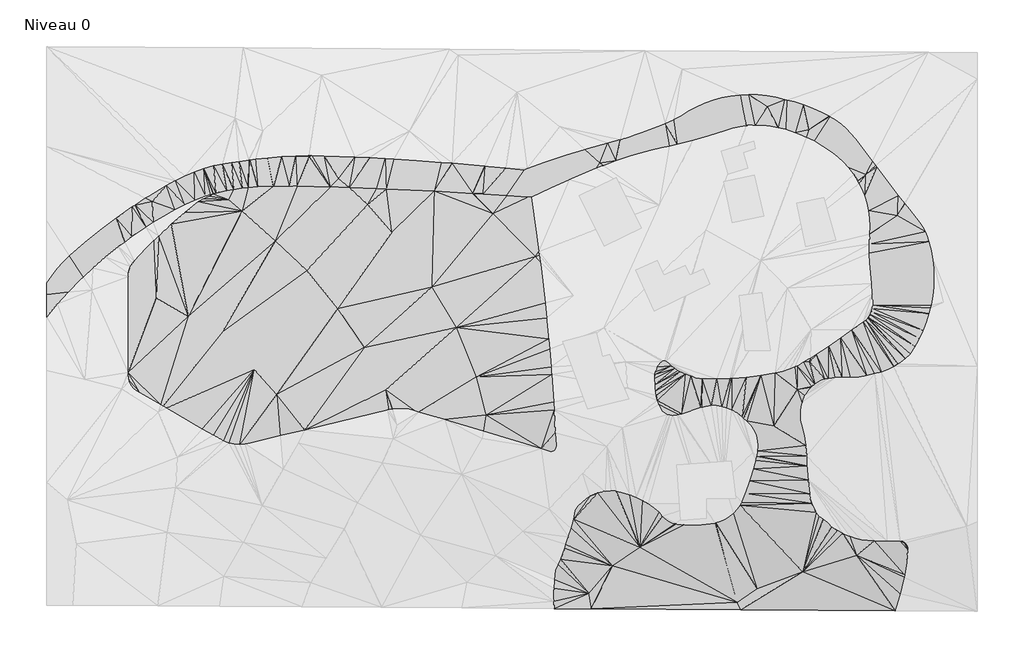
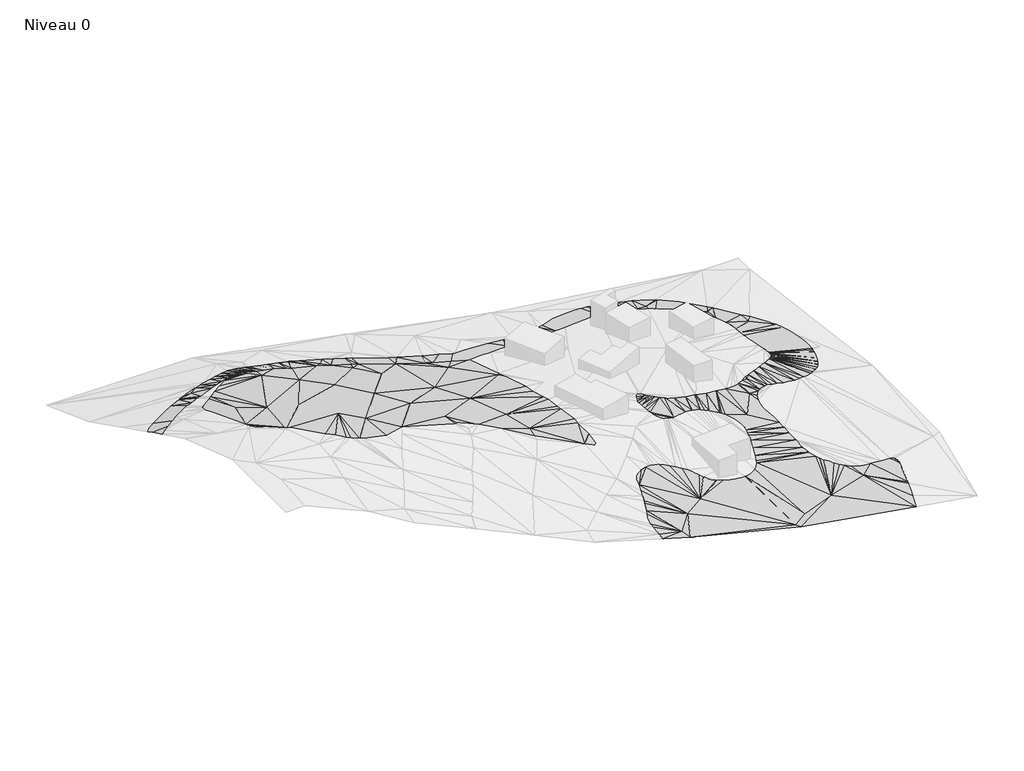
# One storey, part 1 of 2: 2 proxies.
"""IFC4 building model written with IfcOpenShell, lengths in millimetres."""

import ifcopenshell
import ifcopenshell.guid

model = None  # the IFC model being written
_history = None  # IfcOwnerHistory: only IFC2X3 demands one
_inside = {}  # id of a spatial element -> (the spatial element, [elements in it])
_under = {}  # id of a project, library or spatial element -> (it, [spatial elements below it])
_declared = {}  # id of a project -> (the project, [libraries it declares])
_typed = {}  # id of a type object -> (the type object, [elements of that type])
_made_of = {}  # id of a material, layer set ... -> (it, [elements and type objects made of it])


def new_model(schema):
    """Start an empty IFC model of exactly this schema.

    Asked for "IFC4X3", IfcOpenShell would pick the latest addendum, in which some entities
    have other attributes; the version numbers below select the first issue.
    IFC2X3 requires an IfcOwnerHistory on every rooted entity: one is made here for all.
    """
    global model, _history
    if schema == "IFC4X3":
        model = ifcopenshell.file(schema_version=(4, 3, 0, 0))
    else:
        model = ifcopenshell.file(schema=schema)
    _inside.clear()
    _under.clear()
    _declared.clear()
    _typed.clear()
    _made_of.clear()
    _history = None
    if model.schema == "IFC2X3":
        org = make("IfcOrganization", Name="unknown")
        user = make(
            "IfcPersonAndOrganization",
            ThePerson=make("IfcPerson", FamilyName="unknown"),
            TheOrganization=org,
        )
        app = make(
            "IfcApplication",
            ApplicationDeveloper=org,
            Version="unknown",
            ApplicationFullName="unknown",
            ApplicationIdentifier="unknown",
        )
        _history = make(
            "IfcOwnerHistory",
            OwningUser=user,
            OwningApplication=app,
            ChangeAction="ADDED",
            CreationDate=0,
        )
    return model


def make(cls, **values):
    """One entity of the class cls with the attributes given. An attribute that is None is left unset."""
    return model.create_entity(
        cls, **{name: value for name, value in values.items() if value is not None}
    )


def rooted(cls, **values):
    """An entity with a GlobalId (a new one), such as an element, a storey or a relation."""
    return make(cls, GlobalId=ifcopenshell.guid.new(), OwnerHistory=_history, **values)


def si_unit(unit_type, name, prefix=None):
    """IfcSIUnit, for example si_unit("LENGTHUNIT", "METRE", prefix="MILLI")."""
    return make("IfcSIUnit", UnitType=unit_type, Prefix=prefix, Name=name)


def assignment(units):
    """IfcUnitAssignment: the units of a project."""
    return None if units is None else make("IfcUnitAssignment", Units=units)


def point(xyz):
    """IfcCartesianPoint."""
    return None if xyz is None else make("IfcCartesianPoint", Coordinates=xyz)


def direction(xyz):
    """IfcDirection."""
    return None if xyz is None else make("IfcDirection", DirectionRatios=xyz)


def frame(location, z_axis=None, x_axis=None):
    """IfcAxis2Placement3D, a coordinate frame: its origin and axes. An axis left out is left unset."""
    return make(
        "IfcAxis2Placement3D",
        Location=point(location),
        Axis=direction(z_axis),
        RefDirection=direction(x_axis),
    )


def origin():
    """The frame at (0, 0, 0) with its axes left unset."""
    return frame((0.0, 0.0, 0.0))


def place(relative_to, where):
    """IfcLocalPlacement: puts the frame where relative to a parent placement (None: the world)."""
    return make(
        "IfcLocalPlacement", PlacementRelTo=relative_to, RelativePlacement=where
    )


def context(
    kind, dimensions, precision=None, world=None, true_north=None, identifier=None
):
    """IfcGeometricRepresentationContext, for example the 3D "Model" context."""
    return make(
        "IfcGeometricRepresentationContext",
        ContextIdentifier=identifier,
        ContextType=kind,
        CoordinateSpaceDimension=dimensions,
        Precision=precision,
        WorldCoordinateSystem=world,
        TrueNorth=true_north,
    )


def project(units=None, contexts=None):
    """IfcProject with its units and contexts."""
    return rooted(
        "IfcProject",
        Name="project",
        RepresentationContexts=contexts,
        UnitsInContext=assignment(units),
    )


def spatial(cls, under=None, at=None, **own):
    """A site, building, storey or space (cls), placed at a placement, below another one or the project."""
    s = rooted(cls, ObjectPlacement=at, **own)
    if under is not None:
        _under.setdefault(under.id(), (under, []))[1].append(s)
    return s


def point_list(points):
    """IfcCartesianPointList2D or 3D."""
    cls = (
        "IfcCartesianPointList2D" if len(points[0]) == 2 else "IfcCartesianPointList3D"
    )
    return make(cls, CoordList=points)


def triangles(points, corners, closed=None, point_numbers=None):
    """IfcTriangulatedFaceSet: each triangle names its three corners, points numbered from 1."""
    return make(
        "IfcTriangulatedFaceSet",
        Coordinates=point_list(points),
        Closed=closed,
        CoordIndex=corners,
        PnIndex=point_numbers,
    )


def shape(context_of_items, identifier, shape_type, items):
    """IfcShapeRepresentation: the items that make up one representation, for example the "Body"."""
    return make(
        "IfcShapeRepresentation",
        ContextOfItems=context_of_items,
        RepresentationIdentifier=identifier,
        RepresentationType=shape_type,
        Items=items,
    )


def made_of(thing, what):
    """Note that an element or type object is made of a material, layer set ...; save() writes the relation."""
    if what is not None:
        _made_of.setdefault(what.id(), (what, []))[1].append(thing)
    return thing


def element(
    cls,
    number,
    at=None,
    inside=None,
    cuts=None,
    type_object=None,
    material=None,
    context=None,
    identifier="Body",
    shape_type=None,
    held_by="IfcProductDefinitionShape",
    body=None,
    shapes=None,
    **own,
):
    """One element of the class cls, such as IfcWall. Its Tag is "e" and its number.

    at: its placement. inside: the storey or other place that contains it. cuts: it is an
    opening in that element (IfcRelVoidsElement). A single representation is given by context,
    identifier, shape_type and body (its items); several are given by shapes. held_by: the class
    of the entity that holds the representations. save() writes the other relations.
    """
    e = rooted(cls, Tag="e%d" % number, ObjectPlacement=at, **own)
    if body is not None:
        shapes = [shape(context, identifier, shape_type, body)]
    if shapes is not None:
        e.Representation = make(held_by, Representations=shapes)
    if inside is not None:
        _inside.setdefault(inside.id(), (inside, []))[1].append(e)
    if cuts is not None:
        rooted(
            "IfcRelVoidsElement", RelatingBuildingElement=cuts, RelatedOpeningElement=e
        )
    if type_object is not None:
        _typed.setdefault(type_object.id(), (type_object, []))[1].append(e)
    return made_of(e, material)


def aggregate(whole, parts):
    """IfcRelAggregates: a whole, such as a stair, and the parts it consists of."""
    return rooted("IfcRelAggregates", RelatingObject=whole, RelatedObjects=parts)


def save(model, path):
    """Write the relations noted so far, then the file.

    IfcRelAggregates (storeys below a building ...), IfcRelContainedInSpatialStructure (elements
    in a storey), IfcRelDefinesByType, IfcRelAssociatesMaterial and IfcRelDeclares: one each for
    every whole, place, type object, material and project.
    """
    for whole, parts in _under.values():
        aggregate(whole, parts)
    for where, things in _inside.values():
        rooted(
            "IfcRelContainedInSpatialStructure",
            RelatedElements=things,
            RelatingStructure=where,
        )
    for kind, things in _typed.values():
        rooted("IfcRelDefinesByType", RelatedObjects=things, RelatingType=kind)
    for what, things in _made_of.values():
        rooted("IfcRelAssociatesMaterial", RelatedObjects=things, RelatingMaterial=what)
    for by, libraries in _declared.values():
        rooted("IfcRelDeclares", RelatingContext=by, RelatedDefinitions=libraries)
    model.write(path)


model = new_model("IFC4")

# Units and contexts
model_context = context("Model", 3, world=origin())
ifc_project = project(units=[si_unit("LENGTHUNIT", "METRE", prefix="MILLI")], contexts=[model_context])

# Site, building, storey
site = spatial("IfcSite", under=ifc_project)
building = spatial("IfcBuilding", under=site)
storey = spatial("IfcBuildingStorey", under=building, Name="Niveau 0", Elevation=260000.0)

# Proxies
placement = place(None, origin())
element("IfcBuildingElementProxy", 1, Name="Building Element Proxy", at=placement, inside=storey, context=model_context, shape_type="Tessellation", body=[
    triangles([(5461.9253311, -14892.5839966, 245077.7291016), (5638.3721191, -14859.6894928, 245000.0036133), (6074.8745453, -14778.3119019, 245000.0036133), (6177.6328079, -14759.1537689, 244957.0666992), (6903.3978104, -14701.6503021, 244664.0985352), (7631.1876892, -14720.7084412, 244380.3577148), (8352.9477036, -14816.116571, 244109.0068359), (9060.691713, -14986.8212677, 243853.0224609), (9679.1074539, -15172.354129, 243634.1334961), (13152.6576416, -16214.4661011, 242319.8881348), (18319.1585632, -17764.4854431, 239999.9925293), (26068.0716248, -20089.262146, 237136.0743164), (27259.3244934, -20446.6542847, 236757.8090332), (27459.4239075, -20471.7899597, 236702.1287109), (27656.7467468, -20430.1366882, 236662.2241699), (27829.6129395, -20326.2686096, 236642.4486328), (27959.0282959, -20171.5966553, 236644.9787109), (28030.7750793, -19983.1197876, 236669.5539551), (28040.7023804, -19693.3886353, 236732.4152344), (27954.1913818, -18025.1730194, 237130.214209), (27793.0198242, -14917.253421, 237479.718457), (27721.8730042, -13872.0334991, 237602.0737793), (27468.2280212, -10145.7423431, 237309.3474609), (27383.2983215, -9138.4712677, 237234.2450684), (27179.2642639, -6718.5683945, 237124.4471191), (27066.4106873, -5380.0989304, 236879.2713867), (26785.7417725, -2590.3197968, 236377.9996582), (26587.672467, -621.5677288, 236207.1821777), (26586.2399963, -609.3132079, 236206.1775879), (26032.1389343, 4128.6104942, 235181.6819824), (25917.9040466, 4985.2352417, 235000.0000488), (25798.7996887, 5878.3580521, 234838.5773438), (25736.375592, 6346.462619, 234724.9284668), (25399.9542664, 8869.1964249, 234210.8203125), (24691.2858948, 13598.9524933, 233265.482666), (24264.5072937, 13627.8030579, 233360.1931641), (21430.2802917, 13819.3960144, 233962.537793), (18225.349173, 14036.0490692, 234699.7765137), (16934.2535614, 14109.9236298, 235000.0000488), (16926.4017151, 14110.3736023, 235002.0836426), (16918.7672974, 14110.8107849, 235004.5579102), (16895.6570801, 14112.1327972, 235011.7388672), (11755.2394501, 14406.2625183, 236562.4163086), (5281.6468002, 14709.5556335, 238537.3097168), (4043.5328384, 14754.7365967, 238919.2212891), (326.2429862, 14890.3899445, 239999.9925293), (-1194.7352142, 14945.8935333, 240403.2981445), (-1445.016885, 14952.4361572, 240470.4568359), (-2196.7071945, 14972.0872833, 240677.7186035), (-6612.5847473, 15087.5267487, 241747.9044434), (-7673.2147751, 15115.2529633, 242053.0020996), (-9787.7060577, 15108.9986938, 242680.9637695), (-9862.7898468, 15105.1803223, 242704.4228027), (-11899.479483, 15001.6168762, 243199.6483887), (-13178.2037567, 14875.0571594, 243535.8697266), (-14003.6987183, 14793.3551697, 243841.5254883), (-15110.3904694, 14630.0546722, 244271.8992188), (-16095.5501038, 14484.6879639, 244494.7135254), (-16898.0999542, 14312.0601288, 244701.7148438), (-17683.6008453, 14073.5735229, 244936.9749023), (-17867.1733612, 14000.7488983, 245000.0036133), (-17869.5360077, 13999.8117462, 245000.0036133), (-17881.3899353, 13995.1097076, 245003.1476074), (-18446.6565948, 13770.8664185, 245062.4184082), (-19182.0291504, 13406.0165955, 245167.7515137), (-19884.665332, 12981.5308777, 245297.6784668), (-21713.6513672, 11517.309787, 245774.5237793), (-23490.0871216, 9989.7600037, 246278.3441895), (-25211.7797058, 8400.7651337, 246808.5257813), (-25840.9529297, 7777.7717651, 247018.6152832), (-26876.6083191, 6752.2855225, 247469.1924316), (-28482.5149475, 5046.3559296, 248213.0167969), (-28762.0560242, 4688.6989815, 248366.179541), (-28985.6260986, 4293.6303635, 248531.1741211), (-29148.304541, 3869.8393707, 248704.4100586), (-29246.5125, 3426.6489807, 248882.0364258), (-29278.0919678, 2973.8074356, 249060.1836914), (-29278.0919678, 563.91111, 249999.9960938), (-29278.0919678, -9903.4478302, 254089.2720703), (-29278.0919678, -10226.1920837, 254197.823584), (-29230.8646179, -10716.6691223, 254353.6466309), (-29132.0566956, -11050.2324829, 254446.7200195), (-29090.9173462, -11189.1228424, 254483.9084473), (-28863.3916992, -11626.1926758, 254581.0001953), (-28556.6522827, -12011.8191376, 254645.1637207), (-28181.9658508, -12331.8309998, 254674.036377), (-27753.1013306, -12574.4696777, 254666.5391602), (-24924.5367737, -14208.2350708, 254628.1042969), (-24608.6421021, -14390.6948639, 254643.8428711), (-24122.5485168, -14671.4591217, 254571.5310059), (-19336.6929657, -17435.7450439, 253368.2742188), (-17908.9545319, -18260.3993591, 253207.7444824), (-16495.964035, -19076.5355896, 252729.0574219), (-15804.2260254, -19319.1417114, 252490.0952637), (-15086.3151947, -19467.3349915, 252239.0594238), (-14355.0528534, -19518.471405, 251980.4147461), (-13623.5033203, -19471.6324036, 251718.7935059), (-12904.7332397, -19327.6586334, 251458.8837891), (-8883.8705292, -18356.7248749, 249999.9960938), (-7118.5149124, -17930.4369415, 249999.9960938), (-5621.094104, -17568.8473846, 249999.9960938), (25262.7858948, 5656.7303009, 235000.0000488), (19576.2376465, 11399.3158264, 235000.0000488), (18659.4912781, -15598.7327545, 239999.9925293), (17364.2168518, -10506.9644806, 239999.9925293), (14684.3385681, -3851.934359, 239999.9925293), (11423.8201447, 1552.4861973, 239999.9925293), (6019.3994431, 8832.8213196, 239999.9925293), (2848.2107414, 12629.3151672, 239999.9925293), (5237.1559113, -12265.1536743, 245000.0036133), (2332.6879932, -6523.7645874, 245000.0036133), (-1179.6915104, -1288.9682705, 245000.0036133), (-5367.5287674, 3776.9636444, 245000.0036133), (-9589.1385269, 7694.6175385, 245000.0036133), (-13979.6129791, 11747.3631866, 245000.0036133), (-15769.5758148, 13300.9160339, 245000.0036133), (-9340.0310577, -12827.8646759, 249999.9960938), (-12401.0663086, -9467.9668533, 249999.9960938), (-16622.6760681, -4371.1988846, 249999.9960938), (-21233.4085876, -2374.1937447, 249999.9960938), (-25521.0957092, 92.6948053, 249999.9960938)], [[82, 84, 85], [86, 82, 85], [120, 79, 88], [79, 87, 88], [82, 86, 87], [89, 120, 88], [80, 82, 87], [77, 78, 121], [79, 121, 78], [80, 87, 79], [82, 80, 81], [83, 84, 82], [79, 120, 121], [76, 77, 121], [89, 90, 119], [118, 93, 94], [95, 118, 94], [117, 96, 97], [97, 98, 117], [96, 118, 95], [117, 98, 99], [90, 118, 119], [69, 121, 120], [120, 89, 119], [91, 92, 118], [90, 91, 118], [100, 101, 117], [114, 119, 113], [92, 93, 118], [118, 117, 112], [96, 117, 118], [99, 100, 117], [118, 113, 119], [114, 120, 119], [121, 75, 76], [121, 74, 75], [121, 73, 74], [121, 72, 73], [121, 70, 71], [121, 69, 70], [67, 115, 66], [66, 116, 65], [68, 69, 120], [63, 64, 116], [65, 116, 64], [63, 116, 62], [67, 68, 115], [121, 71, 72], [60, 116, 59], [116, 60, 61], [56, 116, 115], [116, 61, 62], [57, 58, 116], [116, 58, 59], [115, 114, 53], [66, 115, 116], [120, 115, 68], [57, 116, 56], [54, 55, 115], [115, 55, 56], [53, 54, 115], [52, 114, 51], [52, 53, 114], [114, 50, 51], [50, 114, 49], [114, 115, 120], [111, 117, 101], [1, 2, 110], [10, 11, 104], [106, 8, 9], [10, 105, 9], [11, 12, 104], [104, 105, 10], [3, 4, 110], [106, 111, 110], [101, 110, 111], [4, 5, 110], [110, 2, 3], [8, 110, 7], [6, 110, 5], [6, 7, 110], [110, 8, 106], [106, 9, 105], [104, 23, 105], [111, 112, 117], [13, 19, 12], [18, 13, 14], [15, 16, 18], [17, 18, 16], [15, 18, 14], [19, 13, 18], [105, 23, 24], [105, 25, 26], [105, 24, 25], [22, 23, 104], [104, 21, 22], [20, 21, 12], [19, 20, 12], [104, 12, 21], [106, 105, 26], [109, 113, 108], [113, 118, 112], [108, 113, 112], [113, 109, 48], [107, 103, 43], [107, 108, 112], [109, 108, 44], [107, 43, 108], [107, 106, 102], [112, 111, 107], [111, 106, 107], [103, 41, 42], [47, 48, 109], [49, 113, 48], [46, 47, 109], [44, 108, 43], [45, 109, 44], [45, 46, 109], [42, 43, 103], [113, 49, 114], [102, 31, 32], [31, 102, 30], [32, 33, 102], [102, 33, 34], [30, 106, 29], [102, 106, 30], [106, 28, 29], [107, 102, 103], [38, 103, 37], [103, 38, 39], [39, 40, 103], [40, 41, 103], [34, 35, 36], [37, 103, 36], [36, 103, 34], [103, 102, 34], [106, 27, 28], [106, 26, 27], [1, 110, 101]], closed=False),
])
element("IfcBuildingElementProxy", 2, Name="Building Element Proxy", at=placement, inside=storey, context=model_context, shape_type="Tessellation", body=[
    triangles([(52761.2167236, -41712.1376587, 224999.9964844), (73470.7665894, -41850.5803711, 221737.0328613), (73954.4672974, -40312.9905029, 222053.3856445), (74149.3809814, -39567.3615967, 222212.9666016), (74381.6691284, -38678.7623474, 222539.7373535), (74661.5264648, -37343.4252502, 223039.2789551), (74728.1503052, -37025.5400024, 223167.2711426), (74993.0876221, -35357.3046204, 223848.2714355), (75175.8346069, -33678.0792114, 224543.0755371), (75161.3610718, -33390.02005, 224667.328418), (75071.0921631, -33116.0879333, 224793.9811523), (74911.473999, -32875.8584106, 224913.9366211), (74732.6709595, -32720.2260498, 224999.9964844), (74693.9198364, -32686.497876, 225009.0005859), (74433.9775635, -32561.5357361, 225048.5888672), (74150.2134888, -32509.9040039, 225074.3733398), (72420.3004761, -32456.4840088, 225177.8460938), (70689.5642578, -32455.1538574, 225270.6404297), (69819.3569092, -32426.0254028, 225323.1395508), (68955.8886841, -32314.0554932, 225392.3260254), (68107.0335205, -32120.2696472, 225477.530127), (67425.6379028, -31894.5113342, 225560.3901855), (67280.5211792, -31846.4328735, 225600.0156738), (66483.8814331, -31495.0380432, 225830.1783691), (66449.0463501, -31475.5066772, 225840.8381836), (65724.3789551, -31069.2872864, 226050.7230469), (65008.9296021, -30573.059436, 226273.2396973), (64344.0492554, -30010.8797974, 226496.2586426), (63809.4400269, -29615.357428, 226666.4994141), (63330.3994995, -29154.0925598, 226836.2006836), (62914.9550903, -28634.8103027, 227002.5533203), (62570.069165, -28066.2147766, 227162.7295898), (62301.5227661, -27457.8333069, 227314.0691895), (62113.8132935, -26819.8582947, 227454.042041), (62010.0893921, -26162.9821106, 227580.2668945), (61837.1929688, -24285.8664551, 227916.3580078), (61665.4174072, -22420.9128479, 228223.8741211), (61629.5079712, -21049.2686646, 228429.6662109), (61495.1998901, -19683.7450378, 228656.7593262), (61263.186145, -18331.389212, 228903.9628418), (60934.6713135, -16999.1833191, 229170.0117188), (60786.1966553, -16306.9430145, 229303.2500977), (60730.7302734, -15601.1360962, 229417.4756836), (60769.2395508, -14894.200177, 229510.6979004), (60901.0547607, -14198.5961243, 229581.2610352), (60995.4955078, -13913.7297913, 229601.0365723), (61123.845813, -13526.5801666, 229673.7763184), (61392.5921997, -12974.4266602, 229772.9330566), (61433.6873657, -12889.9980927, 229765.4916504), (61825.123938, -12300.0666595, 229691.765918), (62173.1073486, -11902.246756, 229624.4956055), (62291.2536255, -11767.1840698, 229612.3475098), (62674.0953735, -11431.8696533, 229562.4528809), (63097.9578735, -11150.1845215, 229497.9730957), (63555.3764648, -10927.0853485, 229420.0615723), (64038.305127, -10766.5009644, 229330.0763672), (64538.2374023, -10671.2556152, 229229.6173828), (65465.5854492, -10592.8697021, 229033.1270508), (66396.203064, -10584.283017, 228828.7302246), (67500.0566162, -10574.0162018, 228586.289209), (68600.0173828, -10480.7928223, 228353.2429688), (69689.8578369, -10305.1430786, 228130.9495605), (70763.4062622, -10048.057608, 227920.6182129), (71640.5945801, -9800.8692078, 227752.5912598), (72491.1752197, -9473.6380188, 227598.6657715), (73307.8509521, -9069.1661957, 227460.1998047), (73799.3000244, -8766.2056183, 227382.9952148), (74083.6408081, -8590.9192245, 227297.5678711), (74811.884729, -8042.9945297, 227066.6982422), (75486.3505371, -7430.0854294, 226840.0330078), (76131.0088623, -6416.804837, 226571.3238281), (76707.3550781, -5363.1697311, 226313.0884277), (77212.8684082, -4273.7783775, 226066.4802246), (77645.3489868, -3153.3857185, 225832.5410156), (78002.9085571, -2006.882008, 225612.3125977), (78183.1161621, -1258.285841, 225480.525293), (78283.9844238, -839.2707922, 225456.9918457), (78287.4818848, -818.8306881, 225456.2477051), (78490.3439209, 368.8305757, 225244.6699219), (78614.1038086, 1588.1651241, 225049.0539551), (78625.4798584, 1931.3460663, 224999.9964844), (78654.6966797, 2813.0919548, 224878.7945801), (78611.9178955, 4037.9445168, 224730.9152344), (78485.9813965, 5257.0564407, 224604.2066895), (78277.4731934, 6464.7873734, 224499.2456543), (77987.3420654, 7655.5513184, 224416.5530273), (77767.4299072, 8323.8390152, 224384.1643066), (77488.4748413, 8969.7129639, 224369.169873), (77152.7185913, 9587.9682495, 224371.7185547), (76762.8772705, 10173.6231995, 224391.7731445), (75354.0562866, 12017.4850708, 224499.4875), (74738.0008667, 12759.4909424, 224554.8887695), (73871.7700195, 13802.8249329, 224565.8648437), (71008.7819824, 17645.9438416, 224540.6012695), (70883.822168, 17809.8896484, 224540.0803711), (70419.7249146, 18418.7664368, 224454.4111816), (68103.6848877, 21457.3298035, 224194.4084473), (67527.1851929, 22147.5388367, 224144.0487305), (66898.5351929, 22790.6065613, 224112.9064453), (66221.5672119, 23382.6006592, 224101.167627), (65500.429834, 23919.9073975, 224108.925293), (64739.5227905, 24399.2409302, 224136.1236328), (64641.2729736, 24450.6401184, 224141.9093262), (63583.3887085, 25004.0900574, 224148.9972656), (62392.7125488, 25537.7458557, 224180.3441895), (61171.8800903, 25998.2456543, 224235.1501465), (59925.3794312, 26383.8942078, 224313.2291016), (58954.4433472, 26620.8704407, 224390.6383301), (58657.7963379, 26693.2753235, 224408.1814453), (57480.99375, 26990.3432373, 224474.8378418), (56285.5550903, 27200.17229, 224569.8645996), (55077.9357788, 27321.6253418, 224692.7408203), (53864.6516968, 27354.0489441, 224842.8339844), (52784.7687744, 27303.470636, 224999.9964844), (52652.2652344, 27297.2663635, 225016.5536133), (51447.3248291, 27151.5822327, 225189.7337402), (50256.3417114, 26917.7872009, 225383.8056152), (49085.7480469, 26597.1439819, 225597.7274414), (47941.8690308, 26191.3827026, 225830.3085938), (46830.8810303, 25702.6985779, 226080.3026367), (45758.7883301, 25133.728656, 226346.3701172), (44731.3905762, 24487.547168, 226627.0599609), (43828.9479858, 24009.0368408, 226850.9160645), (43729.4191772, 23956.2633179, 226881.0909668), (42704.3933716, 23470.9464294, 227177.5565918), (41658.4246582, 23032.5964417, 227466.1901367), (39531.3033325, 22246.0700317, 228027.4954102), (37374.4233582, 21545.2569946, 228573.0062988), (36655.5277039, 21343.0832886, 228747.1538086), (35191.2380127, 20931.2805176, 229062.3717773), (34949.6690369, 20864.8473633, 229113.9593262), (32297.1658264, 20135.3802612, 229875.9221191), (31876.1938477, 20006.6137024, 230000.0075684), (29426.9177673, 19257.4291992, 230751.7570313), (26582.8192749, 18298.1412415, 231647.2930664), (24182.2913818, 17411.5965179, 232422.5945801), (23767.1795105, 17258.2907593, 232561.6186523), (21308.3691284, 17498.636554, 233109.436377), (18943.9029877, 17729.7608185, 233568.2734863), (18521.9147919, 17766.6794952, 233651.3381836), (14116.079068, 18152.1408508, 234665.583252), (12679.9027771, 18263.0805908, 235000.0000488), (9284.2088837, 18525.386673, 236002.0412109), (6273.2542969, 18719.4422699, 236903.1955078), (5192.3789932, 18789.1042969, 237207.2327637), (3084.390802, 18892.6247223, 237811.1214844), (1096.9946686, 18990.2222534, 238327.2574219), (-3000.9862999, 19128.6917084, 239415.097998), (-4674.7033241, 19146.8871094, 239873.7676758), (-4901.9804398, 19149.3578888, 239933.3547363), (-5000.266301, 19147.4266113, 239960.367041), (-5166.5776611, 19144.1593689, 239999.9925293), (-6802.7196533, 19112.0090057, 240376.8439453), (-8701.4345718, 19016.6787781, 240838.0064941), (-10596.3566986, 18863.4555725, 241322.1443848), (-12201.9028839, 18685.3083069, 241752.220459), (-13015.5311279, 18595.0312592, 242057.2250977), (-13153.5889801, 18575.6289551, 242110.5241699), (-14416.3642273, 18398.1572296, 242391.9767578), (-15425.8653992, 18256.2810059, 242660.6859375), (-16698.2598267, 18039.5058655, 243015.7526367), (-17825.3131256, 17847.4908417, 243041.8347656), (-19144.300058, 17431.0743988, 243170.1804199), (-20441.8801575, 16952.0966583, 243331.8263672), (-21715.0838379, 16411.6540649, 243526.4005371), (-22961.0054626, 15810.9791016, 243753.4378418), (-23564.2523621, 15483.7351227, 243881.9509277), (-24176.7963684, 15151.4461029, 244008.1199707), (-26469.8843079, 13780.5007141, 244547.2126465), (-26969.7026367, 13456.8541901, 244677.7535156), (-28338.5283875, 12570.5036407, 245000.0036133), (-28712.4474243, 12328.382373, 245084.5379883), (-30901.6138, 10796.9502686, 245634.5695313), (-33034.5812805, 9188.1664902, 246226.9240723), (-35108.6197998, 7504.0919586, 246860.8016602), (-37121.0690552, 5746.8823563, 247535.4023438), (-37144.4769287, 5724.1872299, 247544.3506348), (-37986.5022766, 4907.8138046, 247914.2257324), (-38792.4856384, 4011.4859573, 248326.4982422), (-39535.2379761, 3062.1017555, 248768.9084473), (-40211.2804321, 2064.1129623, 249239.3913574), (-40211.2804321, 562.5783425, 249999.9960938), (-40211.2804321, -2446.8925049, 251479.9057617), (-38761.5991516, -720.6182962, 250703.953125), (-37328.5842957, 857.5690212, 249999.9960938), (-37246.2172302, 948.2790367, 249958.3242188), (-35667.4066223, 2557.3005913, 249225.1038574), (-35304.7682922, 2899.3422134, 249070.6388672), (-34027.5276489, 4104.0375755, 248599.2257813), (-32329.0382996, 5586.1735611, 248030.3116699), (-30574.4802795, 7001.4894974, 247498.6045898), (-29755.0465759, 7611.7034134, 247274.8229004), (-28766.47901, 8347.8666183, 246939.3829102), (-26907.7436279, 9623.288768, 246351.0839355), (-25943.0862305, 10231.704538, 246066.6175781), (-25001.0576843, 10825.8461792, 245882.7776367), (-23049.2744934, 11953.7389618, 245541.6449707), (-21727.0133423, 12631.2848145, 245343.9640137), (-20365.1732117, 13225.2857666, 245180.4205078), (-18969.0270355, 13733.4419586, 245051.6655762), (-18181.3518585, 13965.7801025, 245000.0036133), (-17860.0191467, 14060.5638519, 244972.1355469), (-17823.4399841, 14071.3527283, 244959.9502441), (-17543.9802979, 14153.784906, 244877.3878418), (-16095.5501038, 14484.6879639, 244494.7135254), (-15110.3904694, 14630.0546722, 244271.8992188), (-14003.6987183, 14793.3551697, 243841.5254883), (-13178.2037567, 14875.0571594, 243535.8697266), (-11899.479483, 15001.6168762, 243199.6483887), (-9862.7898468, 15105.1803223, 242704.4228027), (-9787.7060577, 15108.9986938, 242680.9637695), (-7673.2147751, 15115.2529633, 242053.0020996), (-6612.5847473, 15087.5267487, 241747.9044434), (-2196.7071945, 14972.0872833, 240677.7186035), (-1445.016885, 14952.4361572, 240470.4568359), (-1194.7352142, 14945.8935333, 240403.2981445), (326.2429862, 14890.3899445, 239999.9925293), (4043.5328384, 14754.7365967, 238919.2212891), (5281.6468002, 14709.5556335, 238537.3097168), (11755.2394501, 14406.2625183, 236562.4163086), (16895.6570801, 14112.1327972, 235011.7388672), (16918.7672974, 14110.8107849, 235004.5579102), (16926.4017151, 14110.3736023, 235002.0836426), (16934.2535614, 14109.9236298, 235000.0000488), (18225.349173, 14036.0490692, 234699.7765137), (21430.2802917, 13819.3960144, 233962.537793), (24264.5072937, 13627.8030579, 233360.1931641), (24691.2858948, 13598.9524933, 233265.482666), (27250.543634, 14815.4247528, 232370.3559082), (29831.8674683, 15984.344101, 231481.1636719), (32434.3760559, 17105.3082367, 230598.2222168), (33387.2644043, 17489.1627136, 230281.199707), (34228.1781921, 17827.9094788, 230030.3685059), (34333.1438782, 17866.6919952, 230000.0075684), (36042.1953735, 18498.1476379, 229549.1327637), (37874.9021118, 19115.455307, 229080.2683594), (39279.793103, 19538.7608643, 228733.0709473), (40698.8088135, 19912.0101746, 228395.6403809), (42130.1586548, 20234.7346619, 228068.441748), (43225.8731689, 20479.1499756, 227818.5965332), (44278.6647217, 20713.9914551, 227639.8539551), (46411.3578003, 21259.3349121, 227260.0445801), (48526.2008057, 21870.2441345, 226865.5384277), (50621.1799072, 22546.1377625, 226456.7075684), (51619.1887573, 22842.8289551, 226268.4027832), (52637.0894165, 23061.7574524, 226097.6597168), (53535.2206421, 23183.5104858, 225965.2026855), (53668.8264404, 23201.6210083, 225943.752832), (54708.2746216, 23261.5917664, 225796.040918), (55091.0838135, 23254.134082, 225748.6577637), (55749.2529419, 23241.3092834, 225666.0767578), (56785.5803833, 23140.8968079, 225555.0509766), (57811.0852295, 22960.9519775, 225464.3030273), (58819.6887817, 22702.5398438, 225394.3352051), (60115.2794678, 22269.9546204, 225328.3299316), (61077.5323608, 21876.6414185, 225296.3876953), (61379.639502, 21753.1582581, 225286.1371582), (61533.1603638, 21678.2791077, 225283.7931152), (62607.2994507, 21154.3878296, 225211.1649902), (63792.957312, 20476.2292236, 225152.9731934), (64931.4878174, 19721.6148193, 225119.8961426), (65773.7712891, 19065.8176392, 225116.9195801), (66556.1095825, 18339.5503418, 225139.9693359), (67272.6239868, 17548.2707336, 225188.859375), (67917.9334351, 16697.9214752, 225263.254834), (68487.1870605, 15794.889386, 225362.5604004), (68488.0335205, 15793.2476257, 225362.7650391), (68674.5105103, 15431.3301819, 225394.6886719), (68976.1153564, 14845.9600983, 225429.0679687), (69381.0394775, 13858.2587585, 225510.365332), (69698.917749, 12839.2046814, 225616.5728027), (69927.36427, 11796.4543762, 225746.9462402), (70064.6675171, 10737.8399231, 225900.4438477), (70109.7903442, 9671.3125809, 226075.9680176), (70066.2581177, 8691.8217865, 226256.1616699), (70062.3932373, 8604.8834885, 226269.5748047), (69985.4909546, 7319.9328506, 226472.4275391), (69980.8307739, 6099.7363998, 226648.3981934), (69980.5749756, 6032.6928177, 226657.476709), (70047.6685547, 4747.1925041, 226813.2253418), (70186.5624023, 3467.4575363, 226949.8495605), (70346.1154541, 2035.6521996, 227101.654248), (70433.5891846, 597.6422633, 227272.6949707), (70448.7650024, -842.9459312, 227462.5624512), (70405.4420654, -1296.7052982, 227534.6696777), (70289.8351685, -1737.6248966, 227623.5014648), (70104.9487793, -2154.2680698, 227726.7881836), (69855.5779541, -2535.8280647, 227841.8323242), (69831.193396, -2562.5249817, 227851.6549805), (69548.1874146, -2872.4075203, 227928.6363281), (69190.753418, -3155.2765915, 228027.2349609), (67662.0932373, -4197.3969933, 228451.0602539), (66153.5109009, -5268.3743546, 228868.7835938), (64543.5533569, -6398.8733734, 229314.7470703), (62901.14198, -7481.6851868, 229770.5704102), (62076.0295532, -7991.6063873, 230000.0075684), (61920.8808838, -8087.4871628, 230000.0075684), (61227.6906372, -8515.8790375, 230000.0075684), (60321.9133667, -9005.7764603, 230000.0075684), (60054.6227051, -9121.8257721, 230000.0075684), (59377.3245117, -9415.8874741, 230156.2584961), (58400.9422485, -9743.1674973, 230379.333252), (57400.0126465, -9985.1881897, 230605.9426758), (55464.3121948, -10319.0573456, 231041.1533203), (53515.138147, -10562.2006439, 231477.3313477), (51556.7367554, -10714.0878845, 231913.472168), (51379.8684814, -10719.5201111, 231952.6883789), (49593.3821777, -10774.3865295, 232298.5463379), (47629.3532227, -10742.9675171, 232690.3549805), (46856.5399292, -10600.7296875, 232860.9306152), (46098.7908325, -10392.6551788, 233036.845459), (45361.7102417, -10120.2811066, 233216.8158691), (44650.7396851, -9785.6213013, 233399.4837891), (44344.9304443, -9608.1164383, 233482.2880371), (43971.1346558, -9391.145961, 233560.0321289), (43446.8736328, -9004.4544479, 233667.2069824), (42978.6184937, -8551.5553482, 233760.5222168), (42820.2002563, -8426.4949585, 233792.7249023), (42629.5328247, -8360.3042313, 233833.373584), (42427.7032837, -8360.3042313, 233877.9848145), (42237.0312012, -8426.4949585, 233921.5914551), (42078.6176147, -8551.5553482, 233959.4124023), (41763.3484863, -8954.0755463, 234038.0866699), (41633.4215332, -9179.7431671, 234071.8520508), (41508.2384766, -9397.1735001, 234069.117334), (41348.0808105, -9813.2579865, 234048.1883789), (41271.6110596, -10191.3093292, 234015.539209), (41259.6908569, -10250.252243, 234019.4459473), (41245.5475342, -10695.8715546, 234029.3802246), (41294.6236084, -11544.4674316, 234028.6918945), (41353.1363159, -12392.4645081, 234025.5479004), (41435.8428955, -12999.3460693, 234012.7672852), (41439.8100952, -13028.4384796, 234007.0001953), (41603.2233765, -13649.1401276, 233867.3063965), (41813.6849487, -14176.962561, 233733.435498), (41840.9530518, -14245.3455963, 233723.3709961), (42149.4598022, -14808.1949615, 233617.0333008), (42370.041687, -15090.449826, 233545.3353516), (42642.7552734, -15322.7263458, 233460.8753906), (42956.5175171, -15495.5832367, 233367.1136719), (43298.575708, -15601.9941833, 233267.826709), (43655.0237183, -15637.6350311, 233167.0700684), (44264.9585815, -15589.6507507, 232998.5966309), (44476.5782227, -15539.452652, 232941.3536133), (44860.2617798, -15448.4407654, 232875.9436523), (47432.2164185, -14603.2237518, 232477.4377441), (47542.5631714, -14574.7720001, 232459.0202637), (48116.035144, -14426.9112579, 232308.9457031), (48816.969104, -14340.9711548, 232126.8358887), (49523.1213501, -14346.8614929, 231944.6888672), (50222.5251709, -14444.4822784, 231765.5556152), (50903.3022217, -14632.1766357, 231592.5243164), (51553.9136719, -14906.7622009, 231428.4971191), (52292.1058228, -15327.6923218, 231243.9130371), (52980.9242432, -15825.3293884, 231073.1699707), (53218.2167358, -16038.9907654, 231014.9595703), (53612.4252319, -16393.9365417, 230871.6938965), (54179.3348145, -17026.9618561, 230644.8984375), (54675.1231567, -17717.1104279, 230423.4049805), (54914.4573853, -18366.5800873, 230262.8194336), (55065.6202515, -19042.0365326, 230116.4283691), (55119.7890381, -19661.192926, 230000.0075684), (55125.9421509, -19731.5653748, 229987.4687988), (55094.3719849, -20423.0092163, 229882.6751953), (54971.4539063, -21104.17229, 229797.76875), (54951.2969971, -21178.4212463, 229789.8622559), (54817.5423706, -21671.084198, 229664.9396484), (54513.7888184, -22789.9182312, 229492.6524902), (53988.6813354, -24455.8886353, 229252.7601563), (53396.9779175, -26099.3859924, 229032.9224121), (52895.245752, -27334.6478027, 228880.7270508), (52739.6412964, -27717.75, 228778.3519043), (52321.5505371, -28268.5512634, 228653.9315918), (51840.0310913, -28764.8581787, 228554.1237305), (51815.4837524, -28784.6872009, 228550.7564941), (51302.1197388, -29199.4083984, 228573.0807129), (50715.6904175, -29565.8511475, 228627.5332031), (50089.3100464, -29858.8262878, 228712.2164062), (49432.1501587, -30074.0480347, 228825.9210938), (49338.579126, -30092.5771362, 228845.3803711), (48753.8148193, -30208.3700684, 228938.788623), (47581.4956787, -30327.4627991, 229159.630957), (46403.8140747, -30367.2208374, 229405.2159668), (45226.1324707, -30327.4627991, 229674.4274414), (44208.4876099, -30224.0830627, 229927.5654785), (44143.7613281, -30217.5090454, 229943.2296387), (44053.8133301, -30208.3700684, 229964.8283203), (43928.0117065, -30179.5346191, 230000.0075684), (43608.561438, -30106.3111816, 230095.9272949), (43188.8940308, -29925.8966125, 230249.8341797), (42808.4800415, -29673.0073975, 230418.9401367), (42479.7001099, -29355.8732666, 230597.7571289), (42291.1674316, -29156.5784546, 230706.0481934), (41838.6555176, -28678.2355591, 230945.4754395), (41139.8330566, -28060.3593201, 231285.6965332), (40388.7765747, -27507.1465759, 231624.2433105), (39591.4531494, -27022.9947327, 231958.4554688), (38754.192627, -26611.7477417, 232285.6727051), (37883.6457642, -26276.67052, 232603.2719238), (36986.7237671, -26020.4256958, 232908.7602539), (36110.0609985, -25852.6103577, 233187.1618652), (36070.5517822, -25845.0480286, 233198.5286133), (35367.6086426, -25788.6747253, 233374.9085449), (34663.2562866, -25823.2633118, 233521.4856445), (33969.2172546, -25948.2347534, 233635.8228516), (33626.1847046, -26057.076947, 233676.7319824), (33297.039679, -26161.5101074, 233715.2598633), (32657.9112488, -26459.5407532, 233758.4200195), (32585.3784668, -26505.5658508, 233759.2571777), (32062.4638733, -26837.3688538, 233827.1786133), (31520.6109009, -27288.70177, 233865.2041992), (31041.3657349, -27806.0353088, 233863.2880371), (30632.7046326, -28380.7560425, 233821.467334), (30395.7214233, -29593.0890198, 233532.7779785), (30076.0060547, -30786.2789795, 233276.3657227), (30070.5691772, -30802.1268494, 233273.3519531), (29675.0747131, -31954.6820801, 233077.4383301), (29375.0697693, -32953.8187683, 232893.2263184), (29220.969873, -33467.0339539, 232772.7499512), (28673.784668, -34948.2528442, 232452.5834473), (28346.8627625, -35688.1914001, 232307.0481445), (28035.6305969, -36392.6135193, 232174.832959), (27863.9736328, -37671.8749695, 231826.4449219), (27851.1255798, -37767.6179626, 231839.0953125), (27774.2349243, -38799.0108215, 231948.7072266), (27747.9853638, -39151.1079346, 231890.9619141), (27726.5634155, -40538.2697754, 231639.9074707), (27770.4212036, -41545.0734375, 231440.6638184), (32770.5067017, -41578.4993042, 230000.0075684), (52294.6405518, -40727.1466187, 224999.9964844), (54981.5928223, -38884.0312134, 224999.9964844), (61119.4693359, -36599.0427795, 224999.9964844), (68317.411377, -34388.1940063, 224999.9964844), (73784.5009277, 11129.203244, 224999.9964844), (69504.9528442, 16631.4790192, 224999.9964844), (61896.868396, 22677.1879028, 224999.9964844), (56326.664209, 25734.0082947, 224999.9964844), (32418.0584473, -39527.9407471, 230000.0075684), (35589.7718262, -35798.2404968, 230000.0075684), (39273.263269, -33332.7514526, 230000.0075684), (57207.303479, -17068.1046936, 230000.0075684), (60360.5854248, -12138.3242065, 230000.0075684), (62052.8635254, -8515.1680344, 230000.0075684), (33871.4208984, 18194.2824646, 230000.0075684), (16928.7015747, 14115.6209564, 235000.0000488), (-1037.6123194, 16113.1571686, 239999.9925293), (-5012.7649567, 19061.022583, 239999.9925293), (-26057.5164551, 12981.1227631, 245000.0036133)], [[438, 424, 425], [425, 426, 438], [423, 438, 422], [438, 421, 422], [423, 424, 438], [427, 438, 426], [438, 420, 421], [439, 419, 420], [416, 417, 439], [418, 439, 417], [418, 419, 439], [439, 415, 416], [438, 427, 428], [414, 412, 413], [411, 412, 414], [438, 429, 439], [439, 420, 438], [439, 440, 414], [430, 440, 439], [430, 384, 440], [439, 414, 415], [428, 429, 438], [406, 409, 414], [414, 410, 411], [414, 409, 410], [406, 414, 440], [399, 440, 398], [408, 409, 407], [440, 397, 398], [440, 396, 397], [440, 395, 396], [182, 183, 184], [181, 182, 185], [181, 185, 180], [180, 185, 186], [185, 182, 184], [179, 186, 187], [187, 178, 179], [179, 180, 186], [177, 188, 176], [188, 177, 178], [189, 175, 176], [176, 188, 189], [188, 178, 187], [405, 406, 404], [406, 407, 409], [403, 440, 401], [403, 404, 440], [401, 440, 400], [440, 399, 400], [403, 401, 402], [175, 190, 174], [189, 190, 175], [404, 406, 440], [174, 191, 192], [174, 190, 191], [173, 192, 193], [440, 393, 394], [440, 394, 395], [388, 389, 440], [390, 391, 440], [389, 390, 440], [392, 440, 391], [337, 338, 339], [342, 337, 341], [341, 337, 340], [337, 339, 340], [337, 342, 343], [393, 440, 392], [386, 387, 440], [385, 386, 440], [430, 382, 383], [381, 382, 430], [430, 383, 384], [385, 440, 384], [336, 343, 344], [345, 335, 344], [309, 346, 347], [309, 347, 348], [345, 346, 311], [343, 336, 337], [308, 309, 349], [388, 440, 387], [309, 348, 349], [329, 330, 315], [332, 312, 331], [313, 330, 331], [332, 334, 312], [333, 334, 332], [334, 335, 345], [329, 327, 328], [316, 326, 327], [324, 325, 316], [326, 316, 325], [324, 316, 323], [329, 315, 327], [336, 344, 335], [330, 314, 315], [315, 316, 327], [311, 346, 310], [345, 312, 334], [312, 345, 311], [313, 331, 312], [322, 320, 321], [320, 322, 319], [317, 319, 322], [318, 319, 317], [322, 323, 317], [316, 317, 323], [314, 330, 313], [346, 309, 310], [429, 430, 439], [193, 172, 173], [173, 174, 192], [172, 194, 171], [448, 195, 196], [171, 194, 195], [194, 172, 193], [448, 196, 197], [170, 171, 448], [169, 170, 448], [168, 197, 198], [448, 171, 195], [198, 199, 166], [169, 448, 168], [448, 197, 168], [200, 164, 199], [163, 201, 202], [163, 200, 201], [163, 203, 204], [161, 205, 206], [162, 204, 205], [163, 202, 203], [159, 207, 208], [216, 217, 446], [214, 215, 446], [216, 446, 215], [213, 214, 447], [160, 206, 207], [157, 208, 209], [199, 164, 165], [166, 199, 165], [163, 164, 200], [162, 163, 204], [205, 161, 162], [167, 198, 166], [206, 160, 161], [207, 159, 160], [157, 209, 156], [158, 159, 208], [157, 158, 208], [209, 155, 156], [168, 198, 167], [211, 154, 155], [154, 211, 212], [211, 155, 210], [213, 447, 153], [446, 148, 214], [147, 446, 217], [217, 146, 147], [212, 153, 154], [148, 446, 147], [153, 447, 152], [153, 212, 213], [152, 447, 151], [150, 447, 149], [151, 447, 150], [214, 149, 447], [148, 149, 214], [209, 210, 155], [217, 218, 146], [221, 141, 220], [445, 221, 222], [224, 225, 445], [223, 445, 222], [445, 223, 224], [225, 140, 445], [140, 221, 445], [145, 218, 219], [143, 219, 220], [142, 143, 220], [141, 221, 140], [220, 141, 142], [139, 140, 225], [225, 138, 139], [225, 226, 138], [226, 227, 137], [137, 227, 228], [226, 137, 138], [137, 228, 136], [135, 229, 230], [136, 228, 229], [134, 135, 230], [229, 135, 136], [133, 231, 232], [134, 230, 231], [233, 234, 444], [444, 133, 232], [235, 444, 234], [233, 444, 232], [235, 131, 444], [144, 145, 219], [143, 144, 219], [134, 231, 133], [128, 236, 237], [129, 235, 236], [238, 127, 237], [132, 133, 444], [131, 132, 444], [235, 129, 130], [127, 128, 237], [236, 128, 129], [130, 131, 235], [238, 126, 127], [125, 126, 240], [239, 126, 238], [240, 126, 239], [125, 241, 124], [241, 242, 123], [125, 240, 241], [121, 242, 243], [242, 122, 123], [123, 124, 241], [121, 243, 120], [119, 120, 243], [122, 242, 121], [244, 118, 119], [244, 119, 243], [218, 145, 146], [379, 380, 430], [431, 378, 379], [375, 376, 431], [1, 430, 429], [431, 376, 377], [431, 379, 430], [378, 431, 377], [380, 381, 430], [431, 374, 375], [432, 373, 374], [33, 371, 372], [370, 35, 369], [370, 371, 33], [372, 373, 432], [430, 1, 431], [37, 365, 366], [366, 367, 37], [364, 365, 38], [432, 431, 1], [364, 39, 363], [367, 368, 37], [36, 368, 369], [374, 431, 432], [360, 361, 441], [359, 360, 441], [362, 363, 441], [441, 40, 41], [39, 40, 441], [39, 441, 363], [362, 441, 361], [359, 441, 358], [1, 2, 432], [353, 354, 305], [352, 353, 306], [358, 441, 357], [355, 356, 304], [357, 304, 356], [354, 355, 305], [350, 351, 308], [308, 351, 307], [307, 351, 352], [306, 353, 305], [352, 306, 307], [355, 304, 305], [304, 357, 441], [44, 45, 441], [442, 303, 441], [46, 47, 442], [45, 46, 442], [43, 44, 441], [45, 442, 441], [302, 303, 442], [301, 302, 442], [48, 49, 442], [442, 299, 300], [442, 300, 301], [442, 49, 50], [304, 441, 303], [47, 48, 442], [441, 42, 43], [441, 41, 42], [31, 372, 432], [21, 433, 20], [433, 21, 22], [20, 433, 19], [3, 433, 2], [7, 17, 18], [19, 433, 18], [7, 18, 433], [433, 25, 432], [28, 432, 27], [27, 432, 26], [22, 23, 433], [26, 432, 25], [23, 24, 433], [433, 24, 25], [29, 432, 28], [5, 6, 433], [4, 5, 433], [7, 8, 17], [17, 8, 16], [6, 7, 433], [8, 9, 16], [15, 13, 14], [13, 15, 16], [10, 11, 13], [12, 13, 11], [13, 16, 9], [9, 10, 13], [4, 433, 3], [36, 37, 368], [35, 36, 369], [31, 32, 372], [33, 34, 370], [32, 33, 372], [35, 370, 34], [39, 364, 38], [51, 52, 442], [299, 52, 53], [299, 442, 52], [50, 51, 442], [38, 365, 37], [30, 432, 29], [443, 55, 56], [294, 58, 59], [57, 58, 294], [443, 54, 55], [61, 293, 60], [62, 293, 61], [292, 63, 64], [64, 65, 291], [62, 63, 292], [59, 60, 293], [56, 57, 295], [432, 30, 31], [443, 53, 54], [2, 433, 432], [291, 65, 66], [299, 53, 298], [297, 298, 443], [296, 443, 295], [56, 295, 443], [296, 297, 443], [443, 298, 53], [106, 254, 255], [257, 258, 436], [256, 436, 255], [436, 256, 257], [258, 259, 436], [436, 106, 255], [436, 259, 102], [293, 294, 59], [435, 264, 265], [265, 266, 435], [293, 62, 292], [97, 264, 96], [261, 262, 98], [260, 261, 99], [97, 98, 262], [97, 263, 264], [99, 261, 98], [262, 263, 97], [259, 260, 101], [266, 267, 435], [295, 57, 294], [260, 99, 100], [246, 247, 115], [245, 246, 116], [437, 113, 249], [249, 250, 437], [248, 249, 113], [247, 248, 114], [246, 115, 116], [116, 117, 245], [437, 112, 113], [247, 114, 115], [113, 114, 248], [437, 111, 112], [437, 250, 251], [245, 117, 244], [437, 252, 253], [436, 104, 105], [436, 105, 106], [436, 102, 103], [436, 103, 104], [259, 101, 102], [260, 100, 101], [437, 109, 110], [437, 253, 109], [437, 110, 111], [254, 108, 253], [253, 108, 109], [107, 108, 254], [106, 107, 254], [252, 437, 251], [117, 118, 244], [291, 66, 290], [289, 290, 69], [69, 290, 68], [287, 288, 71], [288, 289, 69], [68, 290, 67], [292, 64, 291], [72, 286, 287], [75, 284, 285], [80, 282, 283], [283, 284, 78], [285, 286, 73], [82, 281, 282], [288, 69, 70], [71, 72, 287], [72, 73, 286], [75, 285, 74], [76, 284, 75], [285, 73, 74], [284, 76, 78], [283, 79, 80], [78, 79, 283], [81, 82, 282], [83, 281, 82], [282, 80, 81], [78, 76, 77], [70, 71, 288], [281, 83, 84], [277, 434, 276], [279, 85, 278], [277, 278, 86], [275, 276, 434], [434, 274, 275], [279, 280, 85], [269, 270, 435], [268, 269, 435], [93, 271, 272], [271, 93, 270], [270, 94, 435], [272, 273, 434], [435, 96, 264], [274, 434, 273], [88, 434, 277], [89, 434, 88], [87, 277, 86], [88, 277, 87], [86, 278, 85], [90, 434, 89], [96, 435, 95], [95, 435, 94], [434, 91, 92], [91, 434, 90], [92, 93, 434], [93, 94, 270], [93, 272, 434], [85, 280, 84], [280, 281, 84], [435, 267, 268], [290, 66, 67], [308, 349, 350]], closed=False),
])

save(model, "model.ifc")
